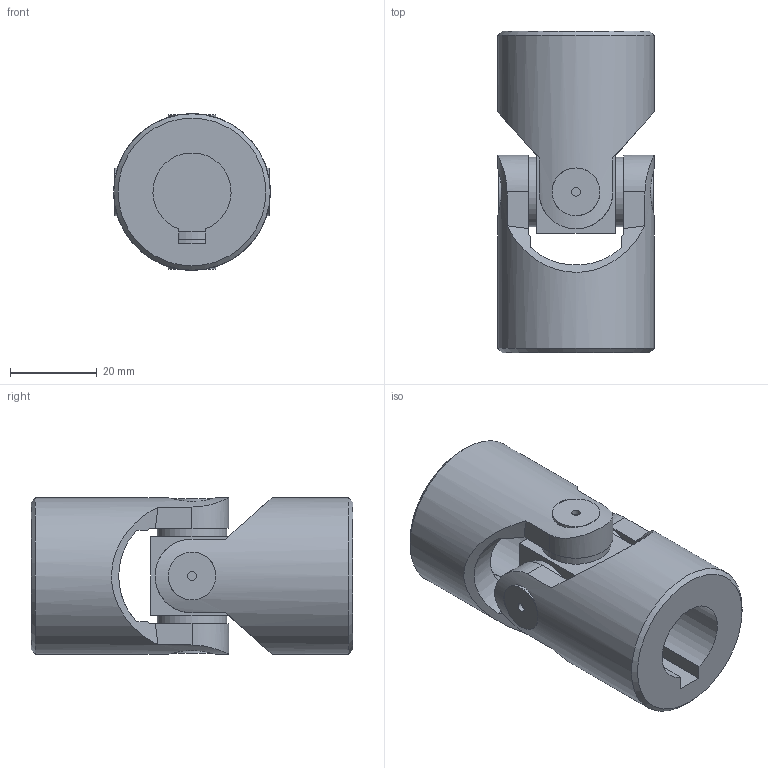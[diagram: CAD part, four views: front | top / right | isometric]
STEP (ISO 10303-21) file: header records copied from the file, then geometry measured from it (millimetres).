
FILE_DESCRIPTION(/* description */ ('EXTENSIBLE TRANSIMISSIONS Series G DIN 808 -2-'),/* implementation_level */ '2;1');
FILE_NAME(/* name */ '\\SRV2016\societa\Stefano\Disegni 3D\Dis. Clienti\0000Catalogo 3D\01Singoli G-GB\SG0S181C.stp',/* time_stamp */ '2021-11-08T16:56:44+01:00',/* author */ ('acquisti'),/* organization */ ('MARIOFERRI'),/* preprocessor_version */ 'ST-DEVELOPER v15.6',/* originating_system */ 'Autodesk Inventor 2015',/* authorisation */ '');
FILE_SCHEMA (('AUTOMOTIVE_DESIGN { 1 0 10303 214 3 1 1 }'));
Length unit declared in the file: millimetre
Products named in the file (4): 2G SFE; 2G MOS; 2G MOC; Assieme3
Assembly tree (3 placements, depth 2):
  Assieme3
    2G SFE
    2G MOS
    2G MOC
Bounding box: 36 x 74 x 36 mm (x, y, z)
Volume: 49800.6 mm3; surface area: 16577.6 mm2
Topology: 3 solids, 3 shells, 87 faces, 205 edges, 134 vertices
Faces by surface type: plane 39, cylinder 34, cone 12, torus 2
Full cylindrical faces by diameter (mm): 2 x4, 16 x4, 18 x1, 20 x1, 36 x2
Entity records: 2888 total; most frequent: CARTESIAN_POINT 965, ORIENTED_EDGE 374, DIRECTION 369, EDGE_CURVE 187, AXIS2_PLACEMENT_3D 162, VERTEX_POINT 133, EDGE_LOOP 118, FACE_OUTER_BOUND 87
